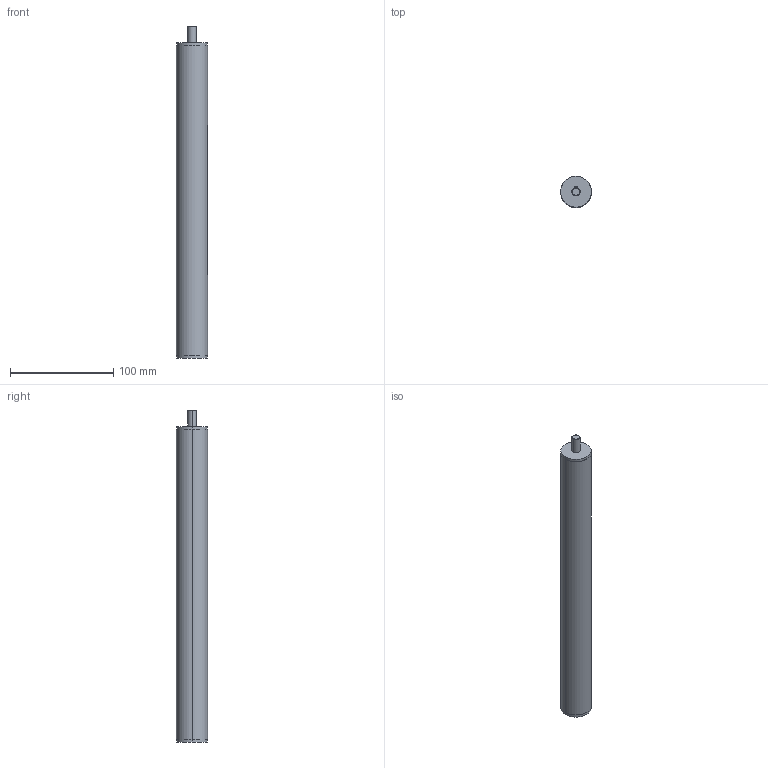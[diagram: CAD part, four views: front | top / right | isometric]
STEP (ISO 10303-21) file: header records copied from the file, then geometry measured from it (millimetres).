
FILE_DESCRIPTION (( 'STEP AP214' ), '1' );
FILE_NAME ('291-30-100-L1-SCR.step', '2023-08-30T05:20:00', ( '' ), ( '' ), 'SwSTEP 2.0', 'SolidWorks 2022', '' );
FILE_SCHEMA (( 'AUTOMOTIVE_DESIGN' ));
Length unit declared in the file: millimetre
Products named in the file (3): WB2910 Rund^WBVES_30-100-1; 291-30-100-L1-SCR; WB2910 mutter^WBVES_Tr14-M4
Assembly tree (2 placements, depth 2):
  291-30-100-L1-SCR
    WB2910 mutter^WBVES_Tr14-M4
    WB2910 Rund^WBVES_30-100-1
Bounding box: 30 x 30 x 321 mm (x, y, z)
Volume: 101397.1 mm3; surface area: 74302.7 mm2
Topology: 2 solids, 2 shells, 48 faces, 112 edges, 70 vertices
Faces by surface type: cylinder 25, plane 17, cone 6
Entity records: 1823 total; most frequent: CARTESIAN_POINT 402, DIRECTION 246, ORIENTED_EDGE 216, EDGE_CURVE 108, AXIS2_PLACEMENT_3D 96, VERTEX_POINT 70, EDGE_LOOP 58, VECTOR 54
